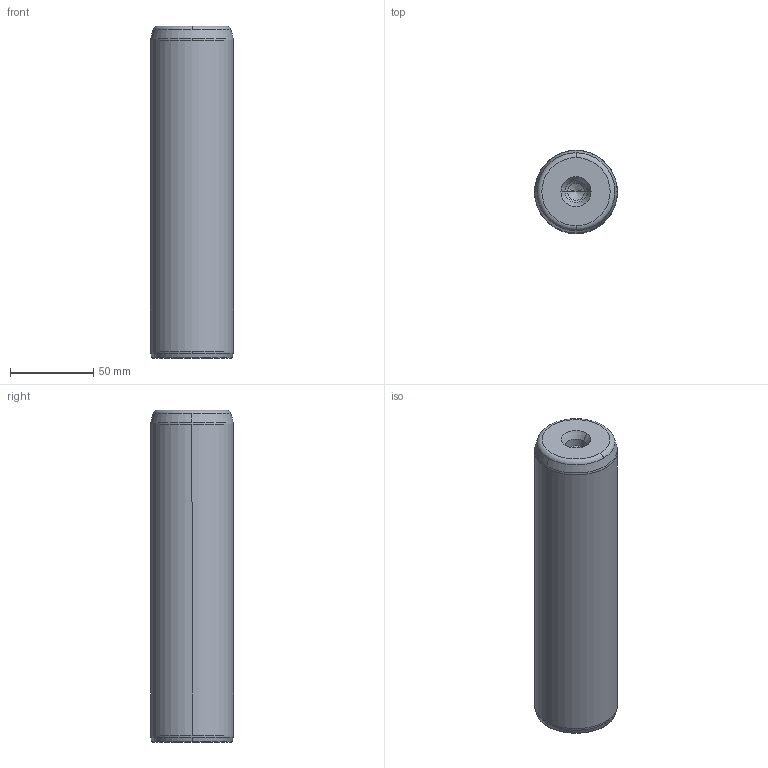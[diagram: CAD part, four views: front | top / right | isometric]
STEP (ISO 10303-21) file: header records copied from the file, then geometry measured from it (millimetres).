
FILE_DESCRIPTION((''),'2;1');
FILE_NAME('P10_050_200.stp','2008-12-23T16:13:23',(''),(''),'Mechanical Desktop 2009','Mechanical Desktop 2009',', , ');
FILE_SCHEMA(('CONFIG_CONTROL_DESIGN'));
Length unit declared in the file: millimetre
Products named in the file (5): Product; ProductAA; blmdl1; ProductA; blmdl1A
Assembly tree (2 placements, depth 3):
  Product
    ProductAA
      blmdl1
  ProductA
  blmdl1A
Bounding box: 50 x 50 x 200 mm (x, y, z)
Volume: 387061.8 mm3; surface area: 35979.1 mm2
Topology: 1 solids, 1 shells, 26 faces, 66 edges, 41 vertices
Faces by surface type: cone 10, torus 8, cylinder 6, plane 2
Entity records: 1012 total; most frequent: DIRECTION 170, CARTESIAN_POINT 134, ORIENTED_EDGE 128, AXIS2_PLACEMENT_3D 77, EDGE_CURVE 64, CIRCLE 48, VERTEX_POINT 41, EDGE_LOOP 27
